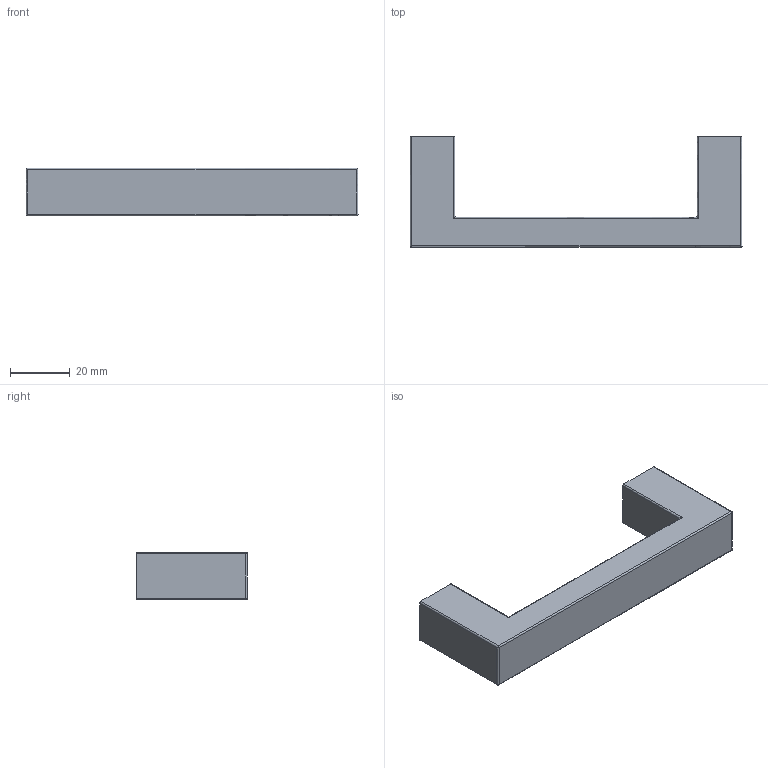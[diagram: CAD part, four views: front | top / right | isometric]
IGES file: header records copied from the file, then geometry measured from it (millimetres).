
Start section: Data from Parasolid IGES Translator 15.0.47, Copyright(c) 2006 Siemens P LM Software. All Rights Reserved.
Global section: file name: 9113247.igs; native system:  By UGS Corp.; preprocessor: XPlus GENERIC/IGES 3.0; author: Noname; organization: Noname; date: 20140122.181656; units: millimetre
Bounding box: 111.01 x 37 x 16.01 mm (x, y, z)
Surface area: 9490.4 mm2 (no closed solid volume)
Topology: 0 solids, 0 shells, 34 faces, 164 edges, 162 vertices
Faces by surface type: revolution 18, extrusion 16
